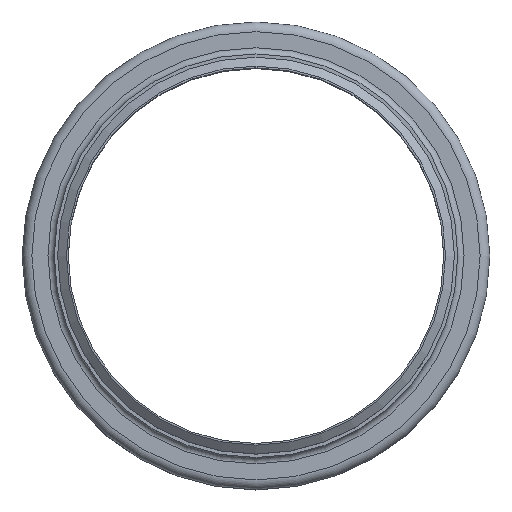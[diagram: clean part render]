
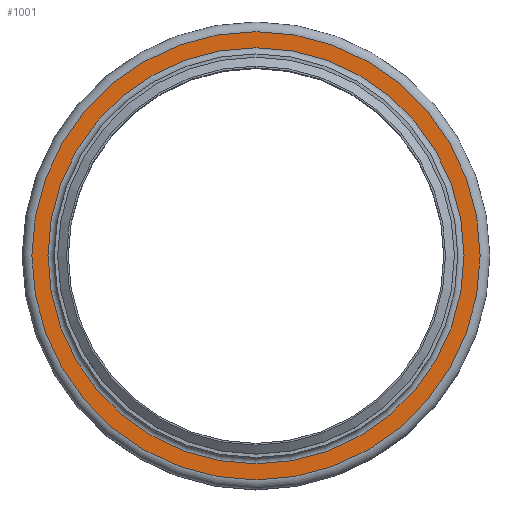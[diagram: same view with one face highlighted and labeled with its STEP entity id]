
A CAD part, top view. The second image highlights one B-rep face of the part: STEP entity #1001.
In plain terms, the highlighted planar face has unit normal (0, 0, 1).
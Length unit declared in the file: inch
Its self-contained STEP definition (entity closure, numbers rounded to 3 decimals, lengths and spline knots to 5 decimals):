
#123=FACE_BOUND('',#304,.T.);
#192=FACE_OUTER_BOUND('',#303,.T.);
#303=EDGE_LOOP('',(#832));
#304=EDGE_LOOP('',(#833));
#424=CIRCLE('',#1220,7.34125);
#425=CIRCLE('',#1222,7.90875);
#511=VERTEX_POINT('',#1895);
#512=VERTEX_POINT('',#1899);
#622=EDGE_CURVE('',#511,#511,#424,.T.);
#623=EDGE_CURVE('',#512,#512,#425,.T.);
#832=ORIENTED_EDGE('',*,*,#623,.F.);
#833=ORIENTED_EDGE('',*,*,#622,.T.);
#932=PLANE('',#1221);
#1001=ADVANCED_FACE('',(#192,#123),#932,.T.);
#1220=AXIS2_PLACEMENT_3D('',#1897,#1573,#1574);
#1221=AXIS2_PLACEMENT_3D('',#1898,#1575,#1576);
#1222=AXIS2_PLACEMENT_3D('',#1900,#1577,#1578);
#1573=DIRECTION('center_axis',(0.,0.,-1.));
#1574=DIRECTION('ref_axis',(1.,0.,0.));
#1575=DIRECTION('center_axis',(0.,0.,1.));
#1576=DIRECTION('ref_axis',(1.,0.,0.));
#1577=DIRECTION('center_axis',(0.,0.,-1.));
#1578=DIRECTION('ref_axis',(1.,0.,0.));
#1895=CARTESIAN_POINT('',(7.34125,0.,-0.22125));
#1897=CARTESIAN_POINT('Origin',(0.,0.,-0.22125));
#1898=CARTESIAN_POINT('Origin',(0.,7.90875,-0.22125));
#1899=CARTESIAN_POINT('',(7.90875,0.,-0.22125));
#1900=CARTESIAN_POINT('Origin',(0.,0.,-0.22125));
